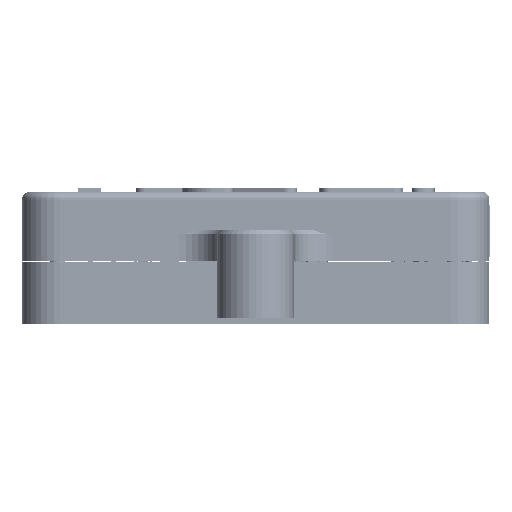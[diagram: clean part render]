
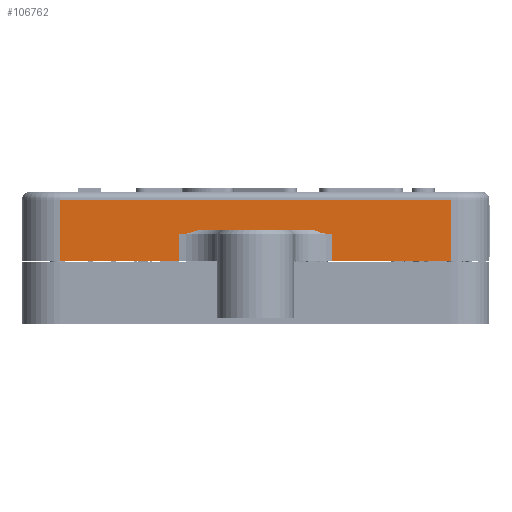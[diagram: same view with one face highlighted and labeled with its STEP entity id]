
A CAD part, left-side view. The second image highlights one B-rep face of the part: STEP entity #106762.
In plain terms, the highlighted planar face has unit normal (-1, 0, 0).
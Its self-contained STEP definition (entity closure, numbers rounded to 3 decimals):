
#182=(
BOUNDED_CURVE()
B_SPLINE_CURVE(2,(#190966,#190967,#190968),.UNSPECIFIED.,.F.,.F.)
B_SPLINE_CURVE_WITH_KNOTS((3,3),(0.,0.236),.UNSPECIFIED.)
CURVE()
GEOMETRIC_REPRESENTATION_ITEM()
RATIONAL_B_SPLINE_CURVE((1.,1.025,1.))
REPRESENTATION_ITEM('')
);
#183=(
BOUNDED_CURVE()
B_SPLINE_CURVE(2,(#190980,#190981,#190982),.UNSPECIFIED.,.F.,.F.)
B_SPLINE_CURVE_WITH_KNOTS((3,3),(0.236,0.471),
 .UNSPECIFIED.)
CURVE()
GEOMETRIC_REPRESENTATION_ITEM()
RATIONAL_B_SPLINE_CURVE((1.,1.025,1.))
REPRESENTATION_ITEM('')
);
#15612=FACE_OUTER_BOUND('',#21762,.T.);
#21762=EDGE_LOOP('',(#94490,#94491,#94492,#94493,#94494,#94495,#94496,#94497,
#94498,#94499));
#32806=LINE('',#190825,#44323);
#32809=LINE('',#190833,#44326);
#32869=LINE('',#190986,#44386);
#32888=LINE('',#191054,#44405);
#32889=LINE('',#191056,#44406);
#32892=LINE('',#191063,#44409);
#32893=LINE('',#191065,#44410);
#32894=LINE('',#191066,#44411);
#44323=VECTOR('',#141734,10.);
#44326=VECTOR('',#141741,10.);
#44386=VECTOR('',#141895,10.);
#44405=VECTOR('',#141950,10.);
#44406=VECTOR('',#141953,10.);
#44409=VECTOR('',#141962,10.);
#44410=VECTOR('',#141963,10.);
#44411=VECTOR('',#141964,10.);
#53587=VERTEX_POINT('',#190822);
#53588=VERTEX_POINT('',#190824);
#53590=VERTEX_POINT('',#190830);
#53591=VERTEX_POINT('',#190832);
#53626=VERTEX_POINT('',#190964);
#53627=VERTEX_POINT('',#190965);
#53630=VERTEX_POINT('',#190978);
#53631=VERTEX_POINT('',#190979);
#53657=VERTEX_POINT('',#191062);
#53658=VERTEX_POINT('',#191064);
#67351=EDGE_CURVE('',#53588,#53587,#32806,.T.);
#67356=EDGE_CURVE('',#53591,#53590,#32809,.T.);
#67420=EDGE_CURVE('',#53626,#53627,#182,.F.);
#67426=EDGE_CURVE('',#53630,#53631,#183,.F.);
#67429=EDGE_CURVE('',#53630,#53627,#32869,.T.);
#67462=EDGE_CURVE('',#53588,#53626,#32888,.T.);
#67463=EDGE_CURVE('',#53631,#53590,#32889,.T.);
#67466=EDGE_CURVE('',#53587,#53657,#32892,.T.);
#67467=EDGE_CURVE('',#53658,#53657,#32893,.T.);
#67468=EDGE_CURVE('',#53591,#53658,#32894,.T.);
#94490=ORIENTED_EDGE('',*,*,#67462,.F.);
#94491=ORIENTED_EDGE('',*,*,#67351,.T.);
#94492=ORIENTED_EDGE('',*,*,#67466,.T.);
#94493=ORIENTED_EDGE('',*,*,#67467,.F.);
#94494=ORIENTED_EDGE('',*,*,#67468,.F.);
#94495=ORIENTED_EDGE('',*,*,#67356,.T.);
#94496=ORIENTED_EDGE('',*,*,#67463,.F.);
#94497=ORIENTED_EDGE('',*,*,#67426,.F.);
#94498=ORIENTED_EDGE('',*,*,#67429,.T.);
#94499=ORIENTED_EDGE('',*,*,#67420,.F.);
#101383=PLANE('',#115605);
#106762=ADVANCED_FACE('',(#15612),#101383,.T.);
#115605=AXIS2_PLACEMENT_3D('',#191061,#141960,#141961);
#141734=DIRECTION('',(0.,-1.,0.));
#141741=DIRECTION('',(0.,-1.,0.));
#141895=DIRECTION('',(0.,-1.,0.));
#141950=DIRECTION('',(0.,0.,1.));
#141953=DIRECTION('',(0.,0.,-1.));
#141960=DIRECTION('center_axis',(-1.,0.,
0.));
#141961=DIRECTION('ref_axis',(0.,-1.,0.));
#141962=DIRECTION('',(0.,0.,1.));
#141963=DIRECTION('',(0.,-1.,0.));
#141964=DIRECTION('',(0.,0.,1.));
#190822=CARTESIAN_POINT('',(0.502,5.504,0.048));
#190824=CARTESIAN_POINT('',(0.502,21.004,0.048));
#190825=CARTESIAN_POINT('',(0.502,56.504,0.048));
#190830=CARTESIAN_POINT('',(0.502,41.004,0.048));
#190832=CARTESIAN_POINT('',(0.502,56.504,0.048));
#190833=CARTESIAN_POINT('',(0.502,56.504,0.048));
#190964=CARTESIAN_POINT('',(0.502,21.004,3.548));
#190965=CARTESIAN_POINT('',(0.502,23.295,4.048));
#190966=CARTESIAN_POINT('Ctrl Pts',(0.502,23.295,
4.048));
#190967=CARTESIAN_POINT('Ctrl Pts',(0.502,22.095,3.548));
#190968=CARTESIAN_POINT('Ctrl Pts',(0.502,21.004,3.548));
#190978=CARTESIAN_POINT('',(0.502,38.712,4.048));
#190979=CARTESIAN_POINT('',(0.502,41.004,3.548));
#190980=CARTESIAN_POINT('Ctrl Pts',(0.502,41.004,3.548));
#190981=CARTESIAN_POINT('Ctrl Pts',(0.502,39.912,
3.548));
#190982=CARTESIAN_POINT('Ctrl Pts',(0.502,38.712,
4.048));
#190986=CARTESIAN_POINT('',(0.502,56.504,4.048));
#191054=CARTESIAN_POINT('',(0.502,21.004,0.048));
#191056=CARTESIAN_POINT('',(0.502,41.004,0.048));
#191061=CARTESIAN_POINT('Origin',(0.502,56.504,0.048));
#191062=CARTESIAN_POINT('',(0.502,5.504,8.083));
#191063=CARTESIAN_POINT('',(0.502,5.504,0.048));
#191064=CARTESIAN_POINT('',(0.502,56.504,8.083));
#191065=CARTESIAN_POINT('',(0.502,43.754,8.083));
#191066=CARTESIAN_POINT('',(0.502,56.504,0.048));
